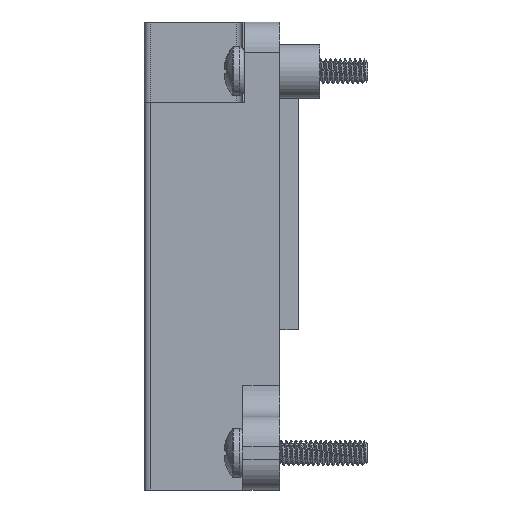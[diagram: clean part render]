
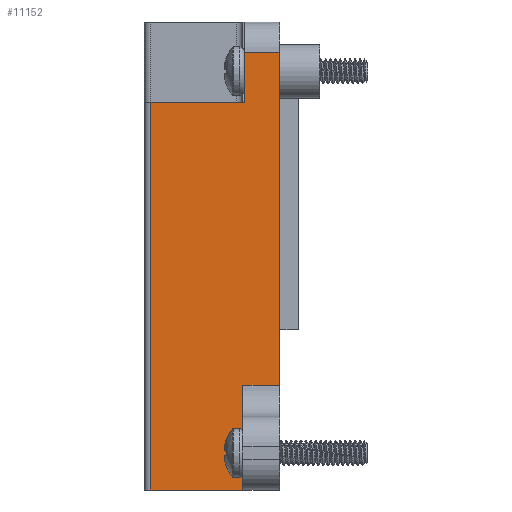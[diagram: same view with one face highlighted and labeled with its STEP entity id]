
A CAD part, left-side view. The second image highlights one B-rep face of the part: STEP entity #11152.
In plain terms, the highlighted planar face has unit normal (-1, 0, 0).
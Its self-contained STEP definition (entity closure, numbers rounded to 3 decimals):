
#27 = VERTEX_POINT ( 'NONE', #10229 ) ;
#352 = VERTEX_POINT ( 'NONE', #10836 ) ;
#602 = CARTESIAN_POINT ( 'NONE',  ( -34.8, 2.85, 19. ) ) ;
#688 = EDGE_LOOP ( 'NONE', ( #9680, #692, #11099, #1088, #12030, #10369, #5011, #7412, #10170 ) ) ;
#692 = ORIENTED_EDGE ( 'NONE', *, *, #9965, .T. ) ;
#954 = CARTESIAN_POINT ( 'NONE',  ( -34.8, 3., -27.062 ) ) ;
#1088 = ORIENTED_EDGE ( 'NONE', *, *, #2214, .T. ) ;
#1131 = FACE_OUTER_BOUND ( 'NONE', #688, .T. ) ;
#1143 = CARTESIAN_POINT ( 'NONE',  ( -34.8, 0., 15. ) ) ;
#1525 = VECTOR ( 'NONE', #3869, 1000. ) ;
#1708 = CARTESIAN_POINT ( 'NONE',  ( -34.8, 0., -19. ) ) ;
#1807 = CARTESIAN_POINT ( 'NONE',  ( -34.8, 10.5, -19. ) ) ;
#2063 = EDGE_CURVE ( 'NONE', #352, #9545, #11670, .T. ) ;
#2214 = EDGE_CURVE ( 'NONE', #8478, #352, #9191, .T. ) ;
#2302 = VECTOR ( 'NONE', #9488, 1000. ) ;
#2395 = EDGE_CURVE ( 'NONE', #9921, #9458, #4042, .T. ) ;
#2625 = LINE ( 'NONE', #602, #3127 ) ;
#2897 = VERTEX_POINT ( 'NONE', #3434 ) ;
#2947 = CARTESIAN_POINT ( 'NONE',  ( -34.8, 2.85, 12.5 ) ) ;
#3127 = VECTOR ( 'NONE', #6376, 1000. ) ;
#3434 = CARTESIAN_POINT ( 'NONE',  ( -34.8, 3., -10.5 ) ) ;
#3439 = CARTESIAN_POINT ( 'NONE',  ( -34.8, 0., -10.5 ) ) ;
#3555 = PLANE ( 'NONE',  #7821 ) ;
#3676 = DIRECTION ( 'NONE',  ( 0., 0., 1. ) ) ;
#3869 = DIRECTION ( 'NONE',  ( 0., 0., -1. ) ) ;
#4042 = LINE ( 'NONE', #7785, #4827 ) ;
#4234 = DIRECTION ( 'NONE',  ( 0., 1., 0. ) ) ;
#4627 = VECTOR ( 'NONE', #11982, 1000. ) ;
#4642 = LINE ( 'NONE', #954, #10843 ) ;
#4787 = EDGE_CURVE ( 'NONE', #9921, #6266, #8777, .T. ) ;
#4827 = VECTOR ( 'NONE', #11534, 1000. ) ;
#5011 = ORIENTED_EDGE ( 'NONE', *, *, #2395, .F. ) ;
#5020 = VERTEX_POINT ( 'NONE', #3439 ) ;
#5168 = CARTESIAN_POINT ( 'NONE',  ( -34.8, 3., -19. ) ) ;
#5230 = DIRECTION ( 'NONE',  ( 0., 1., 0. ) ) ;
#5758 = CARTESIAN_POINT ( 'NONE',  ( -34.8, 3., -10.5 ) ) ;
#5809 = DIRECTION ( 'NONE',  ( 0., 0., 1. ) ) ;
#5850 = EDGE_CURVE ( 'NONE', #5020, #8478, #12105, .T. ) ;
#6134 = CARTESIAN_POINT ( 'NONE',  ( -34.8, 2.85, 16.5 ) ) ;
#6266 = VERTEX_POINT ( 'NONE', #1807 ) ;
#6376 = DIRECTION ( 'NONE',  ( 0., 0., -1. ) ) ;
#6533 = EDGE_CURVE ( 'NONE', #9545, #9458, #2625, .T. ) ;
#7070 = EDGE_CURVE ( 'NONE', #27, #6266, #9153, .T. ) ;
#7313 = DIRECTION ( 'NONE',  ( 1., 0., 0. ) ) ;
#7412 = ORIENTED_EDGE ( 'NONE', *, *, #4787, .T. ) ;
#7494 = CARTESIAN_POINT ( 'NONE',  ( -34.8, 0., -19. ) ) ;
#7711 = DIRECTION ( 'NONE',  ( 0., 0., -1. ) ) ;
#7726 = LINE ( 'NONE', #5758, #2302 ) ;
#7785 = CARTESIAN_POINT ( 'NONE',  ( -34.8, 11., 12.5 ) ) ;
#7821 = AXIS2_PLACEMENT_3D ( 'NONE', #8622, #7313, #7711 ) ;
#7844 = VECTOR ( 'NONE', #5230, 1000. ) ;
#8478 = VERTEX_POINT ( 'NONE', #1143 ) ;
#8622 = CARTESIAN_POINT ( 'NONE',  ( -34.8, 3., -19. ) ) ;
#8777 = LINE ( 'NONE', #10556, #1525 ) ;
#9153 = LINE ( 'NONE', #5168, #7844 ) ;
#9191 = LINE ( 'NONE', #1708, #4627 ) ;
#9458 = VERTEX_POINT ( 'NONE', #2947 ) ;
#9488 = DIRECTION ( 'NONE',  ( 0., -1., 0. ) ) ;
#9545 = VERTEX_POINT ( 'NONE', #6134 ) ;
#9680 = ORIENTED_EDGE ( 'NONE', *, *, #12018, .T. ) ;
#9921 = VERTEX_POINT ( 'NONE', #12152 ) ;
#9965 = EDGE_CURVE ( 'NONE', #2897, #5020, #7726, .T. ) ;
#9978 = VECTOR ( 'NONE', #3676, 1000. ) ;
#10109 = VECTOR ( 'NONE', #4234, 1000. ) ;
#10170 = ORIENTED_EDGE ( 'NONE', *, *, #7070, .F. ) ;
#10229 = CARTESIAN_POINT ( 'NONE',  ( -34.8, 3., -19. ) ) ;
#10369 = ORIENTED_EDGE ( 'NONE', *, *, #6533, .T. ) ;
#10556 = CARTESIAN_POINT ( 'NONE',  ( -34.8, 10.5, -19. ) ) ;
#10836 = CARTESIAN_POINT ( 'NONE',  ( -34.8, 0., 16.5 ) ) ;
#10843 = VECTOR ( 'NONE', #5809, 1000. ) ;
#10917 = CARTESIAN_POINT ( 'NONE',  ( -34.8, 3., 16.5 ) ) ;
#11099 = ORIENTED_EDGE ( 'NONE', *, *, #5850, .T. ) ;
#11152 = ADVANCED_FACE ( 'NONE', ( #1131 ), #3555, .F. ) ;
#11534 = DIRECTION ( 'NONE',  ( 0., -1., 0. ) ) ;
#11670 = LINE ( 'NONE', #10917, #10109 ) ;
#11982 = DIRECTION ( 'NONE',  ( 0., 0., 1. ) ) ;
#12018 = EDGE_CURVE ( 'NONE', #27, #2897, #4642, .T. ) ;
#12030 = ORIENTED_EDGE ( 'NONE', *, *, #2063, .T. ) ;
#12105 = LINE ( 'NONE', #7494, #9978 ) ;
#12152 = CARTESIAN_POINT ( 'NONE',  ( -34.8, 10.5, 12.5 ) ) ;
